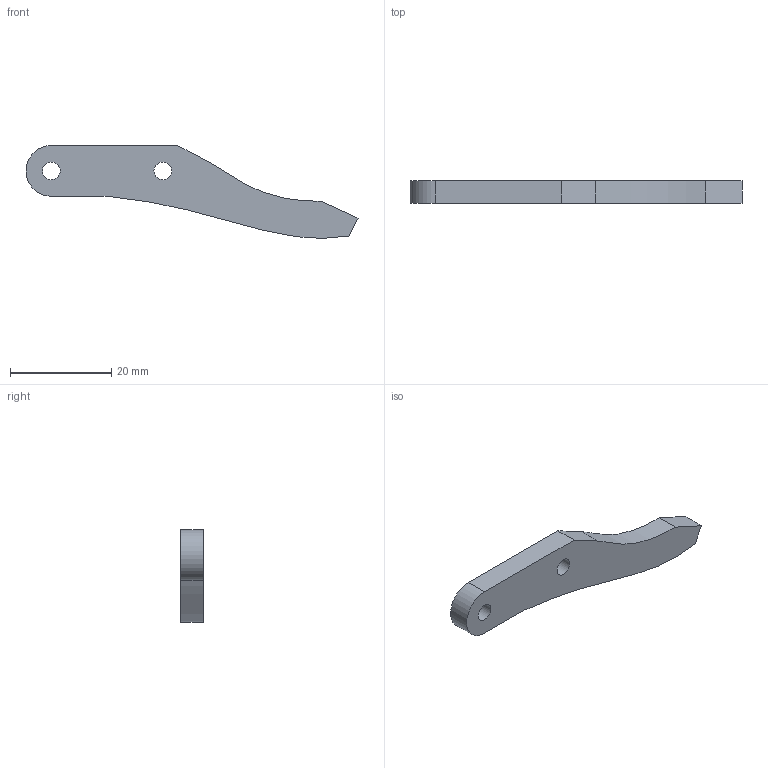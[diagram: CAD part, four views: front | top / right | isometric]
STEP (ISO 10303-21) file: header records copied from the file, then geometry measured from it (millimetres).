
FILE_DESCRIPTION(/* description */ (''),/* implementation_level */ '2;1');
FILE_NAME(/* name */ 'Gripper.step',/* time_stamp */ '2024-01-03T12:17:27+05:30',/* author */ (''),/* organization */ (''),/* preprocessor_version */ 'ST-DEVELOPER v20',/* originating_system */ 'Autodesk Translation Framework v12.14.0.127',/* authorisation */ '');
FILE_SCHEMA (('AUTOMOTIVE_DESIGN { 1 0 10303 214 3 1 1 }'));
Length unit declared in the file: millimetre
Products named in the file (1): Gripper
Bounding box: 65.56 x 4.5 x 18.32 mm (x, y, z)
Volume: 2554.6 mm3; surface area: 1879 mm2
Topology: 1 solids, 1 shells, 12 faces, 30 edges, 20 vertices
Faces by surface type: plane 7, cylinder 3, bspline 2
Full cylindrical faces by diameter (mm): 3.5 x2
Entity records: 413 total; most frequent: CARTESIAN_POINT 89, ORIENTED_EDGE 60, DIRECTION 54, EDGE_CURVE 30, LINE 20, VECTOR 20, VERTEX_POINT 20, AXIS2_PLACEMENT_3D 17
